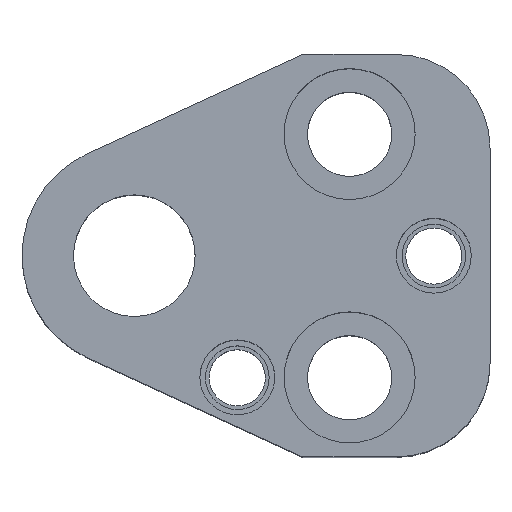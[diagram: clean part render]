
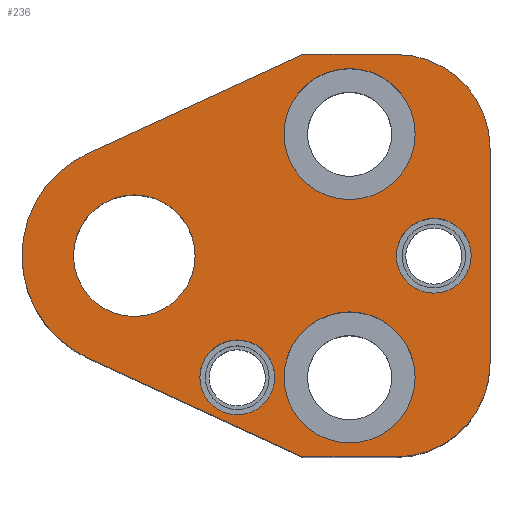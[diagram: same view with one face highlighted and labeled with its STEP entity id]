
A CAD part, top view. The second image highlights one B-rep face of the part: STEP entity #236.
In plain terms, the highlighted planar face has unit normal (0, 0, 1).
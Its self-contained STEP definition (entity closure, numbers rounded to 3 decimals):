
#107=FACE_BOUND('',#331,.T.);
#108=FACE_BOUND('',#332,.T.);
#109=FACE_BOUND('',#333,.T.);
#110=FACE_BOUND('',#334,.T.);
#111=FACE_BOUND('',#335,.T.);
#112=FACE_BOUND('',#336,.T.);
#152=CIRCLE('',#815,10.);
#154=CIRCLE('',#819,10.);
#156=CIRCLE('',#824,12.);
#174=CIRCLE('',#854,4.);
#176=CIRCLE('',#857,4.);
#178=CIRCLE('',#861,4.);
#180=CIRCLE('',#864,4.);
#190=CIRCLE('',#880,7.);
#191=CIRCLE('',#881,7.);
#192=CIRCLE('',#882,7.);
#193=CIRCLE('',#883,7.);
#194=CIRCLE('',#884,6.5);
#195=CIRCLE('',#885,6.5);
#236=ADVANCED_FACE('',(#107,#108,#109,#110,#111,#112),#260,.T.);
#260=PLANE('',#886);
#331=EDGE_LOOP('',(#471,#472,#473,#474,#475,#476,#477,#478));
#332=EDGE_LOOP('',(#479,#480));
#333=EDGE_LOOP('',(#481,#482));
#334=EDGE_LOOP('',(#483,#484));
#335=EDGE_LOOP('',(#485,#486));
#336=EDGE_LOOP('',(#487,#488));
#471=ORIENTED_EDGE('',*,*,#626,.T.);
#472=ORIENTED_EDGE('',*,*,#630,.T.);
#473=ORIENTED_EDGE('',*,*,#633,.T.);
#474=ORIENTED_EDGE('',*,*,#636,.T.);
#475=ORIENTED_EDGE('',*,*,#639,.T.);
#476=ORIENTED_EDGE('',*,*,#642,.T.);
#477=ORIENTED_EDGE('',*,*,#645,.T.);
#478=ORIENTED_EDGE('',*,*,#648,.T.);
#479=ORIENTED_EDGE('',*,*,#697,.F.);
#480=ORIENTED_EDGE('',*,*,#698,.F.);
#481=ORIENTED_EDGE('',*,*,#699,.F.);
#482=ORIENTED_EDGE('',*,*,#700,.F.);
#483=ORIENTED_EDGE('',*,*,#683,.F.);
#484=ORIENTED_EDGE('',*,*,#679,.F.);
#485=ORIENTED_EDGE('',*,*,#677,.F.);
#486=ORIENTED_EDGE('',*,*,#673,.F.);
#487=ORIENTED_EDGE('',*,*,#701,.T.);
#488=ORIENTED_EDGE('',*,*,#702,.T.);
#560=VERTEX_POINT('',#1160);
#561=VERTEX_POINT('',#1162);
#564=VERTEX_POINT('',#1169);
#566=VERTEX_POINT('',#1175);
#568=VERTEX_POINT('',#1181);
#570=VERTEX_POINT('',#1187);
#572=VERTEX_POINT('',#1193);
#574=VERTEX_POINT('',#1199);
#591=VERTEX_POINT('',#1257);
#592=VERTEX_POINT('',#1258);
#595=VERTEX_POINT('',#1270);
#596=VERTEX_POINT('',#1271);
#607=VERTEX_POINT('',#1307);
#608=VERTEX_POINT('',#1308);
#609=VERTEX_POINT('',#1311);
#610=VERTEX_POINT('',#1312);
#611=VERTEX_POINT('',#1315);
#612=VERTEX_POINT('',#1316);
#626=EDGE_CURVE('',#561,#560,#726,.T.);
#630=EDGE_CURVE('',#560,#564,#152,.T.);
#633=EDGE_CURVE('',#564,#566,#731,.T.);
#636=EDGE_CURVE('',#566,#568,#154,.T.);
#639=EDGE_CURVE('',#568,#570,#735,.T.);
#642=EDGE_CURVE('',#570,#572,#738,.T.);
#645=EDGE_CURVE('',#572,#574,#156,.T.);
#648=EDGE_CURVE('',#574,#561,#742,.T.);
#673=EDGE_CURVE('',#591,#592,#174,.T.);
#677=EDGE_CURVE('',#592,#591,#176,.T.);
#679=EDGE_CURVE('',#595,#596,#178,.T.);
#683=EDGE_CURVE('',#596,#595,#180,.T.);
#697=EDGE_CURVE('',#607,#608,#190,.T.);
#698=EDGE_CURVE('',#608,#607,#191,.T.);
#699=EDGE_CURVE('',#609,#610,#192,.T.);
#700=EDGE_CURVE('',#610,#609,#193,.T.);
#701=EDGE_CURVE('',#611,#612,#194,.T.);
#702=EDGE_CURVE('',#612,#611,#195,.T.);
#726=LINE('',#1161,#770);
#731=LINE('',#1176,#775);
#735=LINE('',#1188,#779);
#738=LINE('',#1194,#782);
#742=LINE('',#1204,#786);
#770=VECTOR('',#916,1.);
#775=VECTOR('',#929,1.);
#779=VECTOR('',#941,1.);
#782=VECTOR('',#946,1.);
#786=VECTOR('',#958,1.);
#815=AXIS2_PLACEMENT_3D('',#1170,#922,#923);
#819=AXIS2_PLACEMENT_3D('',#1182,#934,#935);
#824=AXIS2_PLACEMENT_3D('',#1200,#951,#952);
#854=AXIS2_PLACEMENT_3D('',#1256,#1021,#1022);
#857=AXIS2_PLACEMENT_3D('',#1265,#1029,#1030);
#861=AXIS2_PLACEMENT_3D('',#1269,#1037,#1038);
#864=AXIS2_PLACEMENT_3D('',#1278,#1045,#1046);
#880=AXIS2_PLACEMENT_3D('',#1306,#1081,#1082);
#881=AXIS2_PLACEMENT_3D('',#1309,#1083,#1084);
#882=AXIS2_PLACEMENT_3D('',#1310,#1085,#1086);
#883=AXIS2_PLACEMENT_3D('',#1313,#1087,#1088);
#884=AXIS2_PLACEMENT_3D('',#1314,#1089,#1090);
#885=AXIS2_PLACEMENT_3D('',#1317,#1091,#1092);
#886=AXIS2_PLACEMENT_3D('',#1318,#1093,#1094);
#916=DIRECTION('',(1.,0.,0.));
#922=DIRECTION('',(0.,0.,1.));
#923=DIRECTION('',(-0.707,0.707,0.));
#929=DIRECTION('',(0.,1.,0.));
#934=DIRECTION('',(0.,0.,1.));
#935=DIRECTION('',(-0.707,-0.707,0.));
#941=DIRECTION('',(-1.,0.,0.));
#946=DIRECTION('',(-0.908,-0.418,0.));
#951=DIRECTION('',(0.,0.,1.));
#952=DIRECTION('',(1.,0.,0.));
#958=DIRECTION('',(0.908,-0.418,0.));
#1021=DIRECTION('',(0.,0.,1.));
#1022=DIRECTION('',(-1.,0.,0.));
#1029=DIRECTION('',(0.,0.,1.));
#1030=DIRECTION('',(1.,0.,0.));
#1037=DIRECTION('',(0.,0.,1.));
#1038=DIRECTION('',(-1.,0.,0.));
#1045=DIRECTION('',(0.,0.,1.));
#1046=DIRECTION('',(1.,0.,0.));
#1081=DIRECTION('',(0.,0.,1.));
#1082=DIRECTION('',(1.,0.,0.));
#1083=DIRECTION('',(0.,0.,1.));
#1084=DIRECTION('',(-1.,0.,0.));
#1085=DIRECTION('',(0.,0.,1.));
#1086=DIRECTION('',(1.,0.,0.));
#1087=DIRECTION('',(0.,0.,1.));
#1088=DIRECTION('',(-1.,0.,0.));
#1089=DIRECTION('',(0.,0.,-1.));
#1090=DIRECTION('',(-1.,0.,0.));
#1091=DIRECTION('',(0.,0.,-1.));
#1092=DIRECTION('',(1.,0.,0.));
#1093=DIRECTION('',(0.,0.,1.));
#1094=DIRECTION('',(0.908,-0.418,0.));
#1160=CARTESIAN_POINT('',(28.,-21.5,35.));
#1161=CARTESIAN_POINT('',(18.,-21.5,35.));
#1162=CARTESIAN_POINT('',(18.,-21.5,35.));
#1169=CARTESIAN_POINT('',(38.,-11.5,35.));
#1170=CARTESIAN_POINT('',(28.,-11.5,35.));
#1175=CARTESIAN_POINT('',(38.,11.5,35.));
#1176=CARTESIAN_POINT('',(38.,11.5,35.));
#1181=CARTESIAN_POINT('',(28.,21.5,35.));
#1182=CARTESIAN_POINT('',(28.,11.5,35.));
#1187=CARTESIAN_POINT('',(18.,21.5,35.));
#1188=CARTESIAN_POINT('',(18.,21.5,35.));
#1193=CARTESIAN_POINT('',(-5.019,10.9,35.));
#1194=CARTESIAN_POINT('',(18.,21.5,35.));
#1199=CARTESIAN_POINT('',(-5.019,-10.9,35.));
#1200=CARTESIAN_POINT('',(0.,0.,35.));
#1204=CARTESIAN_POINT('',(18.,-21.5,35.));
#1256=CARTESIAN_POINT('',(11.,-13.,35.));
#1257=CARTESIAN_POINT('',(11.,-17.,35.));
#1258=CARTESIAN_POINT('',(11.,-9.,35.));
#1265=CARTESIAN_POINT('',(11.,-13.,35.));
#1269=CARTESIAN_POINT('',(32.,0.,35.));
#1270=CARTESIAN_POINT('',(32.,-4.,35.));
#1271=CARTESIAN_POINT('',(32.,4.,35.));
#1278=CARTESIAN_POINT('',(32.,0.,35.));
#1306=CARTESIAN_POINT('',(23.,-13.,35.));
#1307=CARTESIAN_POINT('',(23.,-6.,35.));
#1308=CARTESIAN_POINT('',(23.,-20.,35.));
#1309=CARTESIAN_POINT('',(23.,-13.,35.));
#1310=CARTESIAN_POINT('',(23.,13.,35.));
#1311=CARTESIAN_POINT('',(23.,20.,35.));
#1312=CARTESIAN_POINT('',(23.,6.,35.));
#1313=CARTESIAN_POINT('',(23.,13.,35.));
#1314=CARTESIAN_POINT('',(0.,0.,35.));
#1315=CARTESIAN_POINT('',(0.,6.5,35.));
#1316=CARTESIAN_POINT('',(0.,-6.5,35.));
#1317=CARTESIAN_POINT('',(0.,0.,35.));
#1318=CARTESIAN_POINT('',(18.,-21.5,35.));
